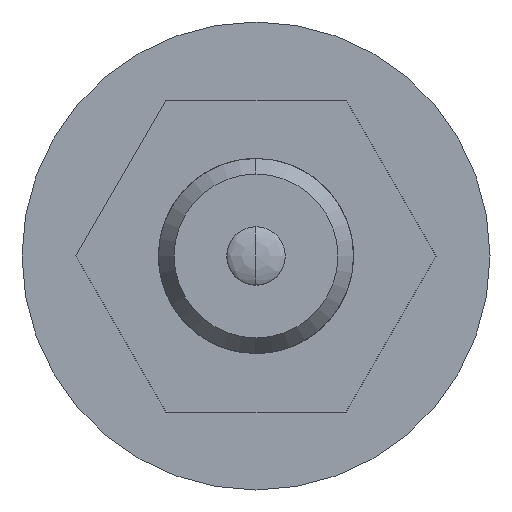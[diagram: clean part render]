
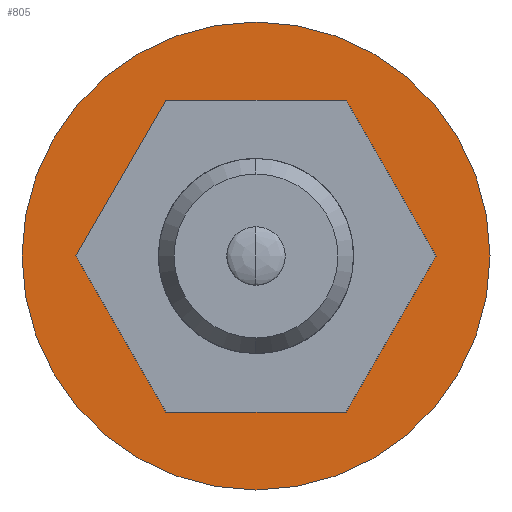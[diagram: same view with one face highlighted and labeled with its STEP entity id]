
A CAD part, left-side view. The second image highlights one B-rep face of the part: STEP entity #805.
In plain terms, the highlighted planar face has unit normal (-1, 0, 0).
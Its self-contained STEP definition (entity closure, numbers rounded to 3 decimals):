
#149 = AXIS2_PLACEMENT_3D ( 'NONE', #5210, #8811, #2432 ) ;
#165 = VECTOR ( 'NONE', #1739, 1000. ) ;
#368 = DIRECTION ( 'NONE',  ( 0., 0., -1. ) ) ;
#468 = LINE ( 'NONE', #2320, #579 ) ;
#483 = CARTESIAN_POINT ( 'NONE',  ( -1.25, 2.309, 4. ) ) ;
#579 = VECTOR ( 'NONE', #6527, 1000. ) ;
#587 = LINE ( 'NONE', #3373, #4213 ) ;
#692 = AXIS2_PLACEMENT_3D ( 'NONE', #5323, #3874, #368 ) ;
#747 = VERTEX_POINT ( 'NONE', #8593 ) ;
#801 = EDGE_CURVE ( 'NONE', #4283, #4157, #1726, .T. ) ;
#805 = ADVANCED_FACE ( 'NONE', ( #7037, #5389 ), #7923, .F. ) ;
#856 = DIRECTION ( 'NONE',  ( 0., 0.5, 0.866 ) ) ;
#917 = CARTESIAN_POINT ( 'NONE',  ( -1.25, 2.309, -4. ) ) ;
#1328 = DIRECTION ( 'NONE',  ( 0., -0.5, -0.866 ) ) ;
#1419 = ORIENTED_EDGE ( 'NONE', *, *, #8465, .F. ) ;
#1717 = VECTOR ( 'NONE', #8356, 1000. ) ;
#1726 = LINE ( 'NONE', #917, #165 ) ;
#1739 = DIRECTION ( 'NONE',  ( 0., -1., 0. ) ) ;
#1846 = VERTEX_POINT ( 'NONE', #5475 ) ;
#2152 = ORIENTED_EDGE ( 'NONE', *, *, #2260, .F. ) ;
#2189 = EDGE_LOOP ( 'NONE', ( #8493, #7676, #2152, #1419, #3725, #3260 ) ) ;
#2192 = VERTEX_POINT ( 'NONE', #2891 ) ;
#2260 = EDGE_CURVE ( 'NONE', #6244, #747, #7176, .T. ) ;
#2320 = CARTESIAN_POINT ( 'NONE',  ( -1.25, -2.309, 4. ) ) ;
#2432 = DIRECTION ( 'NONE',  ( 0., 0., -1. ) ) ;
#2615 = CARTESIAN_POINT ( 'NONE',  ( -1.25, 2.309, 4. ) ) ;
#2645 = CARTESIAN_POINT ( 'NONE',  ( -1.25, 0., 6. ) ) ;
#2716 = DIRECTION ( 'NONE',  ( 0., -0.5, 0.866 ) ) ;
#2788 = DIRECTION ( 'NONE',  ( 1., 0., 0. ) ) ;
#2846 = EDGE_CURVE ( 'NONE', #3591, #1846, #3573, .T. ) ;
#2891 = CARTESIAN_POINT ( 'NONE',  ( -1.25, 0., -6. ) ) ;
#3260 = ORIENTED_EDGE ( 'NONE', *, *, #3441, .F. ) ;
#3373 = CARTESIAN_POINT ( 'NONE',  ( -1.25, 4.619, 0. ) ) ;
#3441 = EDGE_CURVE ( 'NONE', #1846, #4283, #587, .T. ) ;
#3573 = LINE ( 'NONE', #2615, #1717 ) ;
#3591 = VERTEX_POINT ( 'NONE', #483 ) ;
#3725 = ORIENTED_EDGE ( 'NONE', *, *, #801, .F. ) ;
#3824 = EDGE_LOOP ( 'NONE', ( #8518, #6162 ) ) ;
#3874 = DIRECTION ( 'NONE',  ( 1., 0., 0. ) ) ;
#4111 = CARTESIAN_POINT ( 'NONE',  ( -1.25, -2.309, -4. ) ) ;
#4157 = VERTEX_POINT ( 'NONE', #4694 ) ;
#4213 = VECTOR ( 'NONE', #1328, 1000. ) ;
#4283 = VERTEX_POINT ( 'NONE', #6784 ) ;
#4481 = CARTESIAN_POINT ( 'NONE',  ( -1.25, -4.619, 0. ) ) ;
#4694 = CARTESIAN_POINT ( 'NONE',  ( -1.25, -2.309, -4. ) ) ;
#5084 = CARTESIAN_POINT ( 'NONE',  ( -1.25, -4.619, 0. ) ) ;
#5210 = CARTESIAN_POINT ( 'NONE',  ( -1.25, 0., 0. ) ) ;
#5292 = VECTOR ( 'NONE', #856, 1000. ) ;
#5323 = CARTESIAN_POINT ( 'NONE',  ( -1.25, 0., 0. ) ) ;
#5389 = FACE_BOUND ( 'NONE', #2189, .T. ) ;
#5475 = CARTESIAN_POINT ( 'NONE',  ( -1.25, 4.619, 0. ) ) ;
#6162 = ORIENTED_EDGE ( 'NONE', *, *, #6679, .F. ) ;
#6244 = VERTEX_POINT ( 'NONE', #4481 ) ;
#6253 = CARTESIAN_POINT ( 'NONE',  ( -1.25, 0., 0. ) ) ;
#6504 = VERTEX_POINT ( 'NONE', #2645 ) ;
#6527 = DIRECTION ( 'NONE',  ( 0., 1., 0. ) ) ;
#6535 = CIRCLE ( 'NONE', #692, 6. ) ;
#6679 = EDGE_CURVE ( 'NONE', #2192, #6504, #6772, .T. ) ;
#6772 = CIRCLE ( 'NONE', #7347, 6. ) ;
#6784 = CARTESIAN_POINT ( 'NONE',  ( -1.25, 2.309, -4. ) ) ;
#6861 = EDGE_CURVE ( 'NONE', #747, #3591, #468, .T. ) ;
#6966 = DIRECTION ( 'NONE',  ( 0., 0., -1. ) ) ;
#7037 = FACE_OUTER_BOUND ( 'NONE', #3824, .T. ) ;
#7176 = LINE ( 'NONE', #5084, #5292 ) ;
#7347 = AXIS2_PLACEMENT_3D ( 'NONE', #6253, #2788, #6966 ) ;
#7532 = EDGE_CURVE ( 'NONE', #6504, #2192, #6535, .T. ) ;
#7556 = VECTOR ( 'NONE', #2716, 1000. ) ;
#7676 = ORIENTED_EDGE ( 'NONE', *, *, #6861, .F. ) ;
#7772 = LINE ( 'NONE', #4111, #7556 ) ;
#7923 = PLANE ( 'NONE',  #149 ) ;
#8356 = DIRECTION ( 'NONE',  ( 0., 0.5, -0.866 ) ) ;
#8465 = EDGE_CURVE ( 'NONE', #4157, #6244, #7772, .T. ) ;
#8493 = ORIENTED_EDGE ( 'NONE', *, *, #2846, .F. ) ;
#8518 = ORIENTED_EDGE ( 'NONE', *, *, #7532, .F. ) ;
#8593 = CARTESIAN_POINT ( 'NONE',  ( -1.25, -2.309, 4. ) ) ;
#8811 = DIRECTION ( 'NONE',  ( 1., 0., 0. ) ) ;
